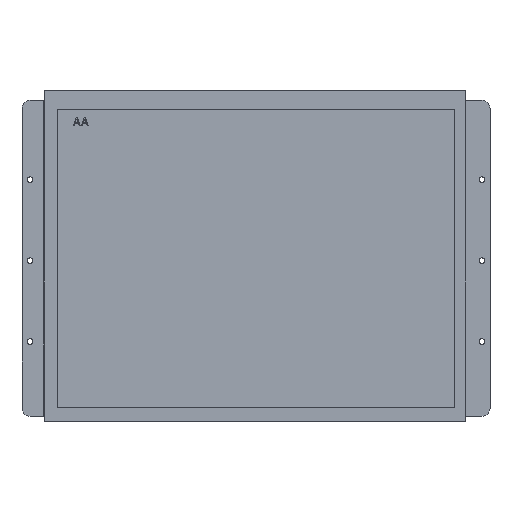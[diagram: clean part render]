
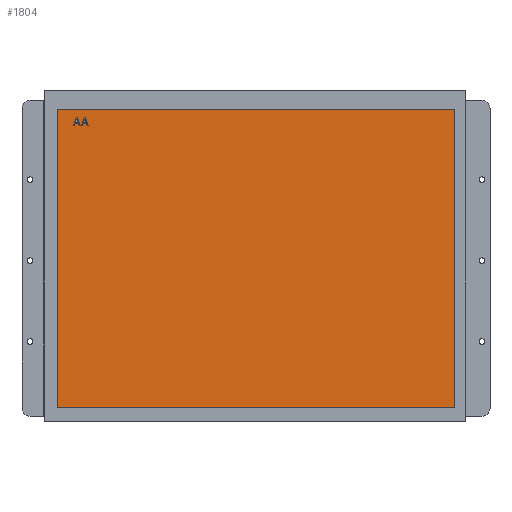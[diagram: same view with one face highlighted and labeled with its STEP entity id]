
A CAD part, top view. The second image highlights one B-rep face of the part: STEP entity #1804.
In plain terms, the highlighted planar face has unit normal (0, 0, 1).
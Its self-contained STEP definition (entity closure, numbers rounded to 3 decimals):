
#526=DIRECTION('',(0.,-1.,0.));
#527=VECTOR('',#526,184.32);
#528=CARTESIAN_POINT('',(-122.88,92.15,6.55));
#529=LINE('',#528,#527);
#530=DIRECTION('',(-1.,0.,0.));
#531=VECTOR('',#530,245.76);
#532=CARTESIAN_POINT('',(122.88,92.15,6.55));
#533=LINE('',#532,#531);
#534=DIRECTION('',(0.,1.,0.));
#535=VECTOR('',#534,184.32);
#536=CARTESIAN_POINT('',(122.88,-92.17,6.55));
#537=LINE('',#536,#535);
#538=DIRECTION('',(1.,0.,0.));
#539=VECTOR('',#538,245.76);
#540=CARTESIAN_POINT('',(-122.88,-92.17,6.55));
#541=LINE('',#540,#539);
#542=DIRECTION('',(0.316,-0.949,0.));
#543=VECTOR('',#542,5.27);
#544=CARTESIAN_POINT('',(-110.38,87.15,6.55));
#545=LINE('',#544,#543);
#546=DIRECTION('',(1.,0.,0.));
#547=VECTOR('',#546,0.833);
#548=CARTESIAN_POINT('',(-111.213,87.15,6.55));
#549=LINE('',#548,#547);
#550=DIRECTION('',(0.316,0.949,0.));
#551=VECTOR('',#550,5.27);
#552=CARTESIAN_POINT('',(-112.88,82.15,6.55));
#553=LINE('',#552,#551);
#554=DIRECTION('',(-1.,0.,0.));
#555=VECTOR('',#554,0.625);
#556=CARTESIAN_POINT('',(-112.255,82.15,6.55));
#557=LINE('',#556,#555);
#558=DIRECTION('',(-0.31,-0.951,0.));
#559=VECTOR('',#558,1.343);
#560=CARTESIAN_POINT('',(-111.838,83.427,6.55));
#561=LINE('',#560,#559);
#562=DIRECTION('',(-1.,0.,0.));
#563=VECTOR('',#562,2.083);
#564=CARTESIAN_POINT('',(-109.755,83.427,6.55));
#565=LINE('',#564,#563);
#566=DIRECTION('',(-0.31,0.951,0.));
#567=VECTOR('',#566,1.343);
#568=CARTESIAN_POINT('',(-109.338,82.15,6.55));
#569=LINE('',#568,#567);
#570=DIRECTION('',(-1.,0.,0.));
#571=VECTOR('',#570,0.625);
#572=CARTESIAN_POINT('',(-108.713,82.15,6.55));
#573=LINE('',#572,#571);
#586=DIRECTION('',(0.316,-0.949,0.));
#587=VECTOR('',#586,5.27);
#588=CARTESIAN_POINT('',(-105.38,87.15,6.55));
#589=LINE('',#588,#587);
#590=DIRECTION('',(1.,0.,0.));
#591=VECTOR('',#590,0.833);
#592=CARTESIAN_POINT('',(-106.213,87.15,6.55));
#593=LINE('',#592,#591);
#594=DIRECTION('',(0.316,0.949,0.));
#595=VECTOR('',#594,5.27);
#596=CARTESIAN_POINT('',(-107.88,82.15,6.55));
#597=LINE('',#596,#595);
#598=DIRECTION('',(-1.,0.,0.));
#599=VECTOR('',#598,0.625);
#600=CARTESIAN_POINT('',(-107.255,82.15,6.55));
#601=LINE('',#600,#599);
#602=DIRECTION('',(-0.31,-0.951,0.));
#603=VECTOR('',#602,1.343);
#604=CARTESIAN_POINT('',(-106.838,83.427,6.55));
#605=LINE('',#604,#603);
#606=DIRECTION('',(-1.,0.,0.));
#607=VECTOR('',#606,2.083);
#608=CARTESIAN_POINT('',(-104.755,83.427,6.55));
#609=LINE('',#608,#607);
#610=DIRECTION('',(-0.31,0.951,0.));
#611=VECTOR('',#610,1.343);
#612=CARTESIAN_POINT('',(-104.338,82.15,6.55));
#613=LINE('',#612,#611);
#614=DIRECTION('',(-1.,0.,0.));
#615=VECTOR('',#614,0.625);
#616=CARTESIAN_POINT('',(-103.713,82.15,6.55));
#617=LINE('',#616,#615);
#806=CARTESIAN_POINT('',(-122.88,92.15,6.55));
#807=CARTESIAN_POINT('',(-122.88,-92.17,6.55));
#808=VERTEX_POINT('',#806);
#809=VERTEX_POINT('',#807);
#810=CARTESIAN_POINT('',(122.88,-92.17,6.55));
#811=VERTEX_POINT('',#810);
#812=CARTESIAN_POINT('',(122.88,92.15,6.55));
#813=VERTEX_POINT('',#812);
#822=CARTESIAN_POINT('',(-110.38,87.15,6.55));
#823=CARTESIAN_POINT('',(-108.713,82.15,6.55));
#824=VERTEX_POINT('',#822);
#825=VERTEX_POINT('',#823);
#826=CARTESIAN_POINT('',(-109.338,82.15,6.55));
#827=VERTEX_POINT('',#826);
#828=CARTESIAN_POINT('',(-109.755,83.427,6.55));
#829=VERTEX_POINT('',#828);
#830=CARTESIAN_POINT('',(-111.838,83.427,6.55));
#831=VERTEX_POINT('',#830);
#832=CARTESIAN_POINT('',(-112.255,82.15,6.55));
#833=VERTEX_POINT('',#832);
#834=CARTESIAN_POINT('',(-112.88,82.15,6.55));
#835=VERTEX_POINT('',#834);
#836=CARTESIAN_POINT('',(-111.213,87.15,6.55));
#837=VERTEX_POINT('',#836);
#844=CARTESIAN_POINT('',(-105.38,87.15,6.55));
#845=CARTESIAN_POINT('',(-103.713,82.15,6.55));
#846=VERTEX_POINT('',#844);
#847=VERTEX_POINT('',#845);
#848=CARTESIAN_POINT('',(-104.338,82.15,6.55));
#849=VERTEX_POINT('',#848);
#850=CARTESIAN_POINT('',(-104.755,83.427,6.55));
#851=VERTEX_POINT('',#850);
#852=CARTESIAN_POINT('',(-106.838,83.427,6.55));
#853=VERTEX_POINT('',#852);
#854=CARTESIAN_POINT('',(-107.255,82.15,6.55));
#855=VERTEX_POINT('',#854);
#856=CARTESIAN_POINT('',(-107.88,82.15,6.55));
#857=VERTEX_POINT('',#856);
#858=CARTESIAN_POINT('',(-106.213,87.15,6.55));
#859=VERTEX_POINT('',#858);
#1757=CARTESIAN_POINT('',(-131.,-100.61,6.55));
#1758=DIRECTION('',(0.,0.,1.));
#1759=DIRECTION('',(1.,0.,0.));
#1760=AXIS2_PLACEMENT_3D('',#1757,#1758,#1759);
#1761=PLANE('',#1760);
#1762=ORIENTED_EDGE('',*,*,#1709,.F.);
#1763=ORIENTED_EDGE('',*,*,#1724,.F.);
#1764=ORIENTED_EDGE('',*,*,#1738,.F.);
#1765=ORIENTED_EDGE('',*,*,#1751,.F.);
#1766=EDGE_LOOP('',(#1762,#1763,#1764,#1765));
#1767=FACE_OUTER_BOUND('',#1766,.F.);
#1769=ORIENTED_EDGE('',*,*,#1768,.F.);
#1771=ORIENTED_EDGE('',*,*,#1770,.F.);
#1773=ORIENTED_EDGE('',*,*,#1772,.F.);
#1775=ORIENTED_EDGE('',*,*,#1774,.F.);
#1777=ORIENTED_EDGE('',*,*,#1776,.F.);
#1779=ORIENTED_EDGE('',*,*,#1778,.F.);
#1781=ORIENTED_EDGE('',*,*,#1780,.F.);
#1783=ORIENTED_EDGE('',*,*,#1782,.F.);
#1784=EDGE_LOOP('',(#1769,#1771,#1773,#1775,#1777,#1779,#1781,#1783));
#1785=FACE_BOUND('',#1784,.F.);
#1787=ORIENTED_EDGE('',*,*,#1786,.F.);
#1789=ORIENTED_EDGE('',*,*,#1788,.F.);
#1791=ORIENTED_EDGE('',*,*,#1790,.F.);
#1793=ORIENTED_EDGE('',*,*,#1792,.F.);
#1795=ORIENTED_EDGE('',*,*,#1794,.F.);
#1797=ORIENTED_EDGE('',*,*,#1796,.F.);
#1799=ORIENTED_EDGE('',*,*,#1798,.F.);
#1801=ORIENTED_EDGE('',*,*,#1800,.F.);
#1802=EDGE_LOOP('',(#1787,#1789,#1791,#1793,#1795,#1797,#1799,#1801));
#1803=FACE_BOUND('',#1802,.F.);
#1709=EDGE_CURVE('',#808,#809,#529,.T.);
#1724=EDGE_CURVE('',#813,#808,#533,.T.);
#1738=EDGE_CURVE('',#811,#813,#537,.T.);
#1751=EDGE_CURVE('',#809,#811,#541,.T.);
#1768=EDGE_CURVE('',#824,#825,#545,.T.);
#1770=EDGE_CURVE('',#837,#824,#549,.T.);
#1772=EDGE_CURVE('',#835,#837,#553,.T.);
#1774=EDGE_CURVE('',#833,#835,#557,.T.);
#1776=EDGE_CURVE('',#831,#833,#561,.T.);
#1778=EDGE_CURVE('',#829,#831,#565,.T.);
#1780=EDGE_CURVE('',#827,#829,#569,.T.);
#1782=EDGE_CURVE('',#825,#827,#573,.T.);
#1786=EDGE_CURVE('',#846,#847,#589,.T.);
#1788=EDGE_CURVE('',#859,#846,#593,.T.);
#1790=EDGE_CURVE('',#857,#859,#597,.T.);
#1792=EDGE_CURVE('',#855,#857,#601,.T.);
#1794=EDGE_CURVE('',#853,#855,#605,.T.);
#1796=EDGE_CURVE('',#851,#853,#609,.T.);
#1798=EDGE_CURVE('',#849,#851,#613,.T.);
#1800=EDGE_CURVE('',#847,#849,#617,.T.);
#1804=ADVANCED_FACE('',(#1767,#1785,#1803),#1761,.T.);
